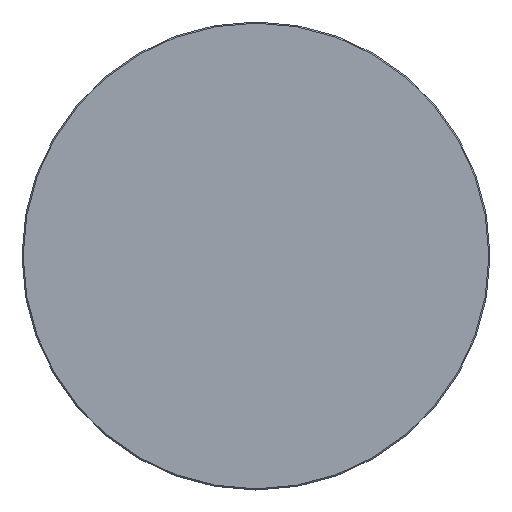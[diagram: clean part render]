
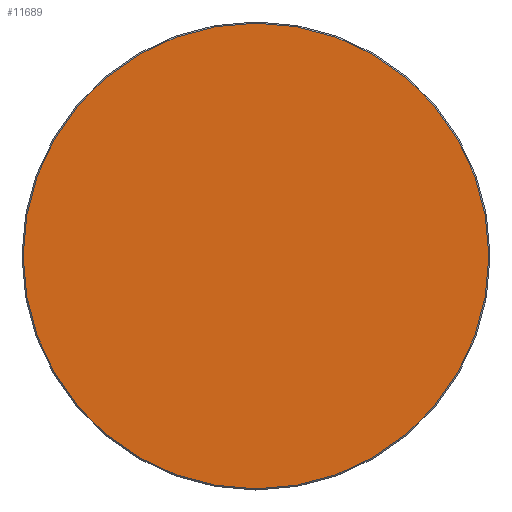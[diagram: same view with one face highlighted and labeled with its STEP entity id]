
A CAD part, top view. The second image highlights one B-rep face of the part: STEP entity #11689.
In plain terms, the highlighted planar face has unit normal (0, 0, 1).
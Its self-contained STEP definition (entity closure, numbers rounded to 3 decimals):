
#11614=CARTESIAN_POINT('',(0.,0.,20.));
#11615=DIRECTION('',(1.,0.,0.));
#11616=DIRECTION('',(0.,0.,1.));
#11617=AXIS2_PLACEMENT_3D('',#11614,#11616,#11615);
#11618=PLANE('',#11617);
#11619=CARTESIAN_POINT('',(-0.5,-298.5,20.));
#11620=VERTEX_POINT('',#11619);
#11621=CARTESIAN_POINT('',(0.5,-298.5,20.));
#11622=VERTEX_POINT('',#11621);
#11623=CARTESIAN_POINT('',(-0.5,-298.5,20.));
#11624=DIRECTION('',(1.,0.,0.));
#11625=VECTOR('',#11624,1.);
#11626=LINE('',#11623,#11625);
#11627=EDGE_CURVE('',#11620,#11622,#11626,.T.);
#11628=ORIENTED_EDGE('E105',*,*,#11627,.T.);
#11629=CARTESIAN_POINT('',(298.5,-0.5,20.));
#11630=VERTEX_POINT('',#11629);
#11631=CARTESIAN_POINT('',(0.5,-0.5,20.));
#11632=DIRECTION('',(0.,-1.,0.));
#11633=DIRECTION('',(0.,-0.,1.));
#11634=AXIS2_PLACEMENT_3D('',#11631,#11633,#11632);
#11635=CIRCLE('',#11634,298.);
#11636=EDGE_CURVE('',#11622,#11630,#11635,.T.);
#11637=ORIENTED_EDGE('E107',*,*,#11636,.T.);
#11638=CARTESIAN_POINT('',(298.5,0.5,20.));
#11639=VERTEX_POINT('',#11638);
#11640=CARTESIAN_POINT('',(298.5,-0.5,20.));
#11641=DIRECTION('',(0.,1.,0.));
#11642=VECTOR('',#11641,1.);
#11643=LINE('',#11640,#11642);
#11644=EDGE_CURVE('',#11630,#11639,#11643,.T.);
#11645=ORIENTED_EDGE('E109',*,*,#11644,.T.);
#11646=CARTESIAN_POINT('',(0.5,298.5,20.));
#11647=VERTEX_POINT('',#11646);
#11648=CARTESIAN_POINT('',(0.5,0.5,20.));
#11649=DIRECTION('',(1.,0.,0.));
#11650=DIRECTION('',(0.,0.,1.));
#11651=AXIS2_PLACEMENT_3D('',#11648,#11650,#11649);
#11652=CIRCLE('',#11651,298.);
#11653=EDGE_CURVE('',#11639,#11647,#11652,.T.);
#11654=ORIENTED_EDGE('E111',*,*,#11653,.T.);
#11655=CARTESIAN_POINT('',(-0.5,298.5,20.));
#11656=VERTEX_POINT('',#11655);
#11657=CARTESIAN_POINT('',(0.5,298.5,20.));
#11658=DIRECTION('',(-1.,0.,0.));
#11659=VECTOR('',#11658,1.);
#11660=LINE('',#11657,#11659);
#11661=EDGE_CURVE('',#11647,#11656,#11660,.T.);
#11662=ORIENTED_EDGE('E113',*,*,#11661,.T.);
#11663=CARTESIAN_POINT('',(-298.5,0.5,20.));
#11664=VERTEX_POINT('',#11663);
#11665=CARTESIAN_POINT('',(-0.5,0.5,20.));
#11666=DIRECTION('',(0.,1.,0.));
#11667=DIRECTION('',(0.,0.,1.));
#11668=AXIS2_PLACEMENT_3D('',#11665,#11667,#11666);
#11669=CIRCLE('',#11668,298.);
#11670=EDGE_CURVE('',#11656,#11664,#11669,.T.);
#11671=ORIENTED_EDGE('E115',*,*,#11670,.T.);
#11672=CARTESIAN_POINT('',(-298.5,-0.5,20.));
#11673=VERTEX_POINT('',#11672);
#11674=CARTESIAN_POINT('',(-298.5,0.5,20.));
#11675=DIRECTION('',(0.,-1.,0.));
#11676=VECTOR('',#11675,1.);
#11677=LINE('',#11674,#11676);
#11678=EDGE_CURVE('',#11664,#11673,#11677,.T.);
#11679=ORIENTED_EDGE('E117',*,*,#11678,.T.);
#11680=CARTESIAN_POINT('',(-0.5,-0.5,20.));
#11681=DIRECTION('',(-1.,0.,0.));
#11682=DIRECTION('',(0.,0.,1.));
#11683=AXIS2_PLACEMENT_3D('',#11680,#11682,#11681);
#11684=CIRCLE('',#11683,298.);
#11685=EDGE_CURVE('',#11673,#11620,#11684,.T.);
#11686=ORIENTED_EDGE('E119',*,*,#11685,.T.);
#11687=EDGE_LOOP('',(#11628,#11637,#11645,#11654,#11662,#11671,#11679,#11686));
#11688=FACE_OUTER_BOUND('',#11687,.T.);
#11689=ADVANCED_FACE('F2',(#11688),#11618,.T.);
